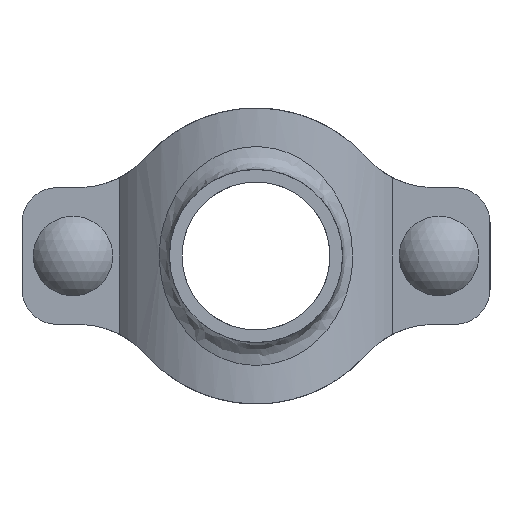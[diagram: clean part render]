
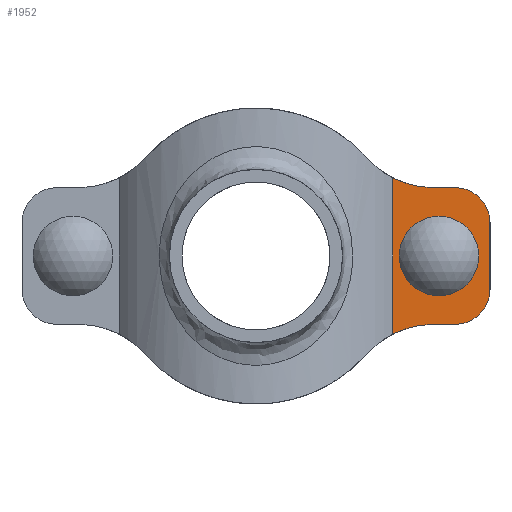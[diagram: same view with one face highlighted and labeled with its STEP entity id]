
A CAD part, front view. The second image highlights one B-rep face of the part: STEP entity #1952.
In plain terms, the highlighted planar face has unit normal (0, -1, 0) as drawn and (0, 1, 0) by its records, which use the part's own axes.
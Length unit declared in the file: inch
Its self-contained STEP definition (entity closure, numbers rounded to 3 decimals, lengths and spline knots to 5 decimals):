
#127=FACE_BOUND('',#345,.T.);
#218=FACE_OUTER_BOUND('',#344,.T.);
#344=EDGE_LOOP('',(#1623,#1624,#1625,#1626,#1627,#1628,#1629,#1630));
#345=EDGE_LOOP('',(#1631,#1632,#1633,#1634));
#457=LINE('',#3757,#603);
#468=LINE('',#3826,#614);
#472=LINE('',#3837,#618);
#490=LINE('',#4078,#636);
#491=LINE('',#4082,#637);
#492=LINE('',#4085,#638);
#603=VECTOR('',#2567,0.3937);
#614=VECTOR('',#2602,0.3937);
#618=VECTOR('',#2614,0.3937);
#636=VECTOR('',#2696,0.3937);
#637=VECTOR('',#2699,0.3937);
#638=VECTOR('',#2702,0.3937);
#712=CIRCLE('',#2162,0.2875);
#714=CIRCLE('',#2166,0.2875);
#733=CIRCLE('',#2199,1.);
#734=CIRCLE('',#2200,1.);
#735=CIRCLE('',#2201,0.38);
#736=CIRCLE('',#2202,0.38);
#858=VERTEX_POINT('',#3745);
#859=VERTEX_POINT('',#3756);
#869=VERTEX_POINT('',#3816);
#870=VERTEX_POINT('',#3817);
#873=VERTEX_POINT('',#3825);
#875=VERTEX_POINT('',#3831);
#907=VERTEX_POINT('',#4073);
#908=VERTEX_POINT('',#4075);
#909=VERTEX_POINT('',#4077);
#910=VERTEX_POINT('',#4079);
#911=VERTEX_POINT('',#4081);
#912=VERTEX_POINT('',#4083);
#1089=EDGE_CURVE('',#859,#858,#457,.T.);
#1104=EDGE_CURVE('',#869,#870,#712,.T.);
#1108=EDGE_CURVE('',#870,#873,#468,.T.);
#1111=EDGE_CURVE('',#873,#875,#714,.T.);
#1114=EDGE_CURVE('',#875,#869,#472,.T.);
#1156=EDGE_CURVE('',#859,#907,#733,.T.);
#1157=EDGE_CURVE('',#908,#858,#734,.T.);
#1158=EDGE_CURVE('',#909,#908,#490,.T.);
#1159=EDGE_CURVE('',#910,#909,#735,.T.);
#1160=EDGE_CURVE('',#911,#910,#491,.T.);
#1161=EDGE_CURVE('',#912,#911,#736,.T.);
#1162=EDGE_CURVE('',#907,#912,#492,.T.);
#1623=ORIENTED_EDGE('',*,*,#1156,.F.);
#1624=ORIENTED_EDGE('',*,*,#1089,.T.);
#1625=ORIENTED_EDGE('',*,*,#1157,.F.);
#1626=ORIENTED_EDGE('',*,*,#1158,.F.);
#1627=ORIENTED_EDGE('',*,*,#1159,.F.);
#1628=ORIENTED_EDGE('',*,*,#1160,.F.);
#1629=ORIENTED_EDGE('',*,*,#1161,.F.);
#1630=ORIENTED_EDGE('',*,*,#1162,.F.);
#1631=ORIENTED_EDGE('',*,*,#1111,.T.);
#1632=ORIENTED_EDGE('',*,*,#1114,.T.);
#1633=ORIENTED_EDGE('',*,*,#1104,.T.);
#1634=ORIENTED_EDGE('',*,*,#1108,.T.);
#1749=PLANE('',#2198);
#1952=ADVANCED_FACE('',(#218,#127),#1749,.F.);
#2162=AXIS2_PLACEMENT_3D('',#3818,#2594,#2595);
#2166=AXIS2_PLACEMENT_3D('',#3832,#2607,#2608);
#2198=AXIS2_PLACEMENT_3D('',#4072,#2690,#2691);
#2199=AXIS2_PLACEMENT_3D('',#4074,#2692,#2693);
#2200=AXIS2_PLACEMENT_3D('',#4076,#2694,#2695);
#2201=AXIS2_PLACEMENT_3D('',#4080,#2697,#2698);
#2202=AXIS2_PLACEMENT_3D('',#4084,#2700,#2701);
#2567=DIRECTION('',(0.,0.,-1.));
#2594=DIRECTION('center_axis',(0.,-1.,0.));
#2595=DIRECTION('ref_axis',(-1.,0.,0.));
#2602=DIRECTION('',(0.,0.,-1.));
#2607=DIRECTION('center_axis',(0.,-1.,0.));
#2608=DIRECTION('ref_axis',(1.,0.,0.));
#2614=DIRECTION('',(0.,0.,1.));
#2690=DIRECTION('center_axis',(0.,-1.,0.));
#2691=DIRECTION('ref_axis',(1.,0.,0.));
#2692=DIRECTION('center_axis',(0.,1.,0.));
#2693=DIRECTION('ref_axis',(-0.745,0.,0.667));
#2694=DIRECTION('center_axis',(0.,1.,0.));
#2695=DIRECTION('ref_axis',(0.,0.,-1.));
#2696=DIRECTION('',(1.,0.,0.));
#2697=DIRECTION('center_axis',(0.,-1.,0.));
#2698=DIRECTION('ref_axis',(0.,0.,-1.));
#2699=DIRECTION('',(0.,0.,-1.));
#2700=DIRECTION('center_axis',(0.,-1.,0.));
#2701=DIRECTION('ref_axis',(-1.,0.,0.));
#2702=DIRECTION('',(-1.,0.,0.));
#3745=CARTESIAN_POINT('',(-1.5019,1.18,-0.85934));
#3756=CARTESIAN_POINT('',(-1.5019,1.18,0.85934));
#3757=CARTESIAN_POINT('',(-1.5019,1.18,0.));
#3816=CARTESIAN_POINT('',(-1.7225,1.18,0.0925));
#3817=CARTESIAN_POINT('',(-2.2975,1.18,0.0925));
#3818=CARTESIAN_POINT('Origin',(-2.01,1.18,0.0925));
#3825=CARTESIAN_POINT('',(-2.2975,1.18,-0.0925));
#3826=CARTESIAN_POINT('',(-2.2975,1.18,-0.04625));
#3831=CARTESIAN_POINT('',(-1.7225,1.18,-0.0925));
#3832=CARTESIAN_POINT('Origin',(-2.01,1.18,-0.0925));
#3837=CARTESIAN_POINT('',(-1.7225,1.18,0.04625));
#4072=CARTESIAN_POINT('Origin',(-2.57,1.18,0.));
#4073=CARTESIAN_POINT('',(-1.95656,1.18,0.75));
#4074=CARTESIAN_POINT('Origin',(-1.95656,1.18,1.75));
#4075=CARTESIAN_POINT('',(-1.95656,1.18,-0.75));
#4076=CARTESIAN_POINT('Origin',(-1.95656,1.18,-1.75));
#4077=CARTESIAN_POINT('',(-2.19,1.18,-0.75));
#4078=CARTESIAN_POINT('',(-2.26328,1.18,-0.75));
#4079=CARTESIAN_POINT('',(-2.57,1.18,-0.37));
#4080=CARTESIAN_POINT('Origin',(-2.19,1.18,-0.37));
#4081=CARTESIAN_POINT('',(-2.57,1.18,0.37));
#4082=CARTESIAN_POINT('',(-2.57,1.18,-0.185));
#4083=CARTESIAN_POINT('',(-2.19,1.18,0.75));
#4084=CARTESIAN_POINT('Origin',(-2.19,1.18,0.37));
#4085=CARTESIAN_POINT('',(-2.38,1.18,0.75));
